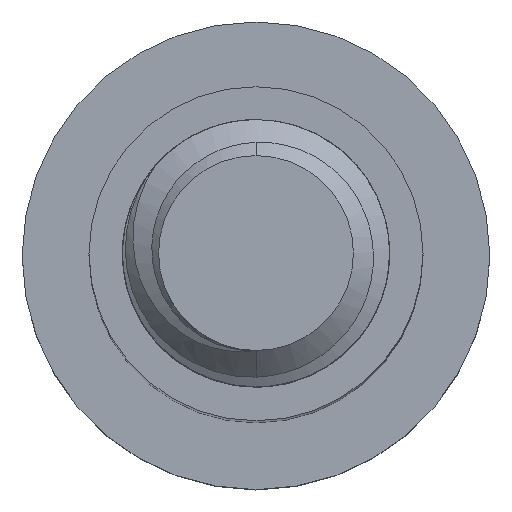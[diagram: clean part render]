
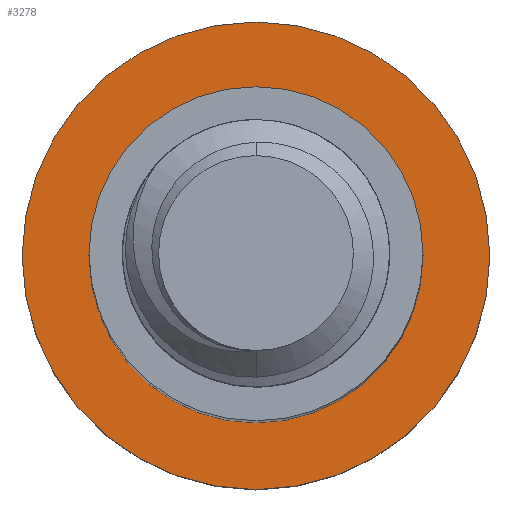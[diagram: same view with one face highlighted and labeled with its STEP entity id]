
A CAD part, top view. The second image highlights one B-rep face of the part: STEP entity #3278.
In plain terms, the highlighted planar face has unit normal (0, 0, 1).
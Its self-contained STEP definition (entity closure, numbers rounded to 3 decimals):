
#105 = CARTESIAN_POINT ( 'NONE',  ( 5., 0., -35. ) ) ;
#179 = VERTEX_POINT ( 'NONE', #759 ) ;
#199 = CIRCLE ( 'NONE', #4228, 7. ) ;
#235 = DIRECTION ( 'NONE',  ( -1., 0., 0. ) ) ;
#260 = CIRCLE ( 'NONE', #2659, 7. ) ;
#429 = EDGE_CURVE ( 'NONE', #1324, #2426, #2371, .T. ) ;
#446 = CARTESIAN_POINT ( 'NONE',  ( -7., 0., -35. ) ) ;
#530 = DIRECTION ( 'NONE',  ( -1., 0., 0. ) ) ;
#759 = CARTESIAN_POINT ( 'NONE',  ( 7., 0., -35. ) ) ;
#773 = PLANE ( 'NONE',  #3140 ) ;
#893 = CARTESIAN_POINT ( 'NONE',  ( 0., 0., -35. ) ) ;
#1118 = CARTESIAN_POINT ( 'NONE',  ( 0., 0., -35. ) ) ;
#1221 = DIRECTION ( 'NONE',  ( 0., 0., -1. ) ) ;
#1290 = AXIS2_PLACEMENT_3D ( 'NONE', #893, #4189, #3566 ) ;
#1324 = VERTEX_POINT ( 'NONE', #1898 ) ;
#1364 = EDGE_LOOP ( 'NONE', ( #3964, #1589 ) ) ;
#1436 = ORIENTED_EDGE ( 'NONE', *, *, #3390, .F. ) ;
#1475 = FACE_BOUND ( 'NONE', #1364, .T. ) ;
#1490 = DIRECTION ( 'NONE',  ( 0., 0., -1. ) ) ;
#1552 = CARTESIAN_POINT ( 'NONE',  ( 0., 0., -35. ) ) ;
#1589 = ORIENTED_EDGE ( 'NONE', *, *, #4109, .T. ) ;
#1867 = CARTESIAN_POINT ( 'NONE',  ( 0., 0., -35. ) ) ;
#1898 = CARTESIAN_POINT ( 'NONE',  ( -5., 0., -35. ) ) ;
#2198 = DIRECTION ( 'NONE',  ( 0., 0., -1. ) ) ;
#2225 = DIRECTION ( 'NONE',  ( 0., 0., -1. ) ) ;
#2245 = EDGE_LOOP ( 'NONE', ( #1436, #2579 ) ) ;
#2345 = VERTEX_POINT ( 'NONE', #446 ) ;
#2371 = CIRCLE ( 'NONE', #3403, 5. ) ;
#2426 = VERTEX_POINT ( 'NONE', #105 ) ;
#2529 = DIRECTION ( 'NONE',  ( -1., 0., 0. ) ) ;
#2579 = ORIENTED_EDGE ( 'NONE', *, *, #2760, .F. ) ;
#2659 = AXIS2_PLACEMENT_3D ( 'NONE', #1552, #1221, #235 ) ;
#2749 = FACE_OUTER_BOUND ( 'NONE', #2245, .T. ) ;
#2760 = EDGE_CURVE ( 'NONE', #2345, #179, #199, .T. ) ;
#3140 = AXIS2_PLACEMENT_3D ( 'NONE', #1118, #2198, #2529 ) ;
#3142 = CIRCLE ( 'NONE', #1290, 5. ) ;
#3194 = DIRECTION ( 'NONE',  ( -1., 0., 0. ) ) ;
#3278 = ADVANCED_FACE ( 'NONE', ( #1475, #2749 ), #773, .F. ) ;
#3390 = EDGE_CURVE ( 'NONE', #179, #2345, #260, .T. ) ;
#3403 = AXIS2_PLACEMENT_3D ( 'NONE', #1867, #2225, #3194 ) ;
#3566 = DIRECTION ( 'NONE',  ( -1., 0., 0. ) ) ;
#3964 = ORIENTED_EDGE ( 'NONE', *, *, #429, .T. ) ;
#4094 = CARTESIAN_POINT ( 'NONE',  ( 0., 0., -35. ) ) ;
#4109 = EDGE_CURVE ( 'NONE', #2426, #1324, #3142, .T. ) ;
#4189 = DIRECTION ( 'NONE',  ( 0., 0., -1. ) ) ;
#4228 = AXIS2_PLACEMENT_3D ( 'NONE', #4094, #1490, #530 ) ;
